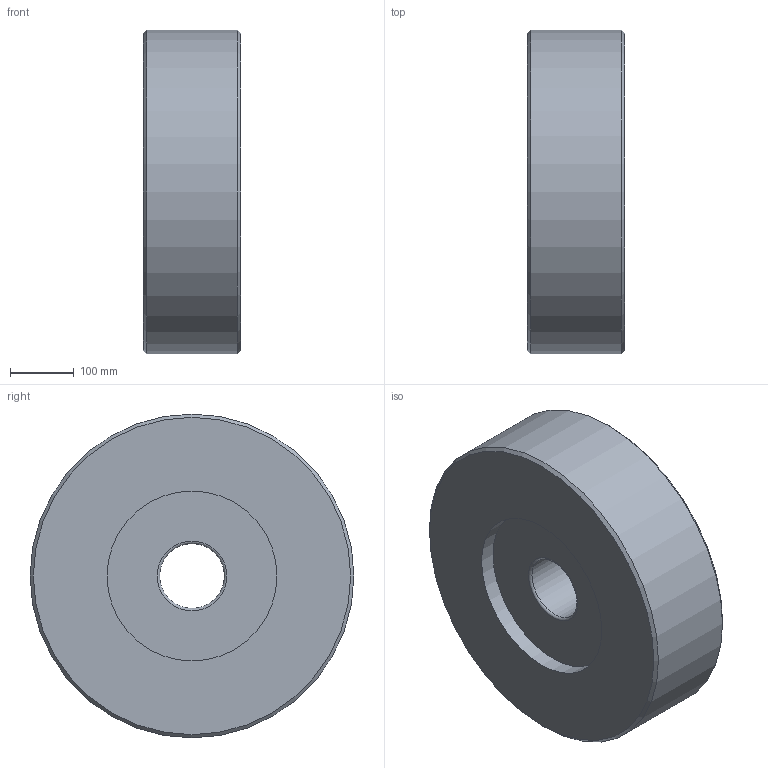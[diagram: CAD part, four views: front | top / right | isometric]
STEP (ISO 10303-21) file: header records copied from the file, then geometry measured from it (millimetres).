
FILE_DESCRIPTION((''),'1');
FILE_NAME('H:/図庫/国内ﾕﾆｯﾄ/ｶﾀﾛｸﾞ/樹脂巻き/ホームページ用ＣＡＤ図面/update用/3D/', '2017-07-13T04:49:32',(''), (''), 'KCM Version 1.1.1442.0', 'Kubotek KeyCreator', '');
FILE_SCHEMA(('AUTOMOTIVE_DESIGN'));
Length unit declared in the file: inch
Bounding box: 152.4 x 508 x 508 mm (x, y, z)
Surface area: 696767.2 mm2 (no closed solid volume)
Topology: 0 solids, 12 shells, 12 faces, 40 edges, 32 vertices
Faces by surface type: plane 4, cylinder 4, cone 2, torus 2
Full cylindrical faces by diameter (mm): 101.6 x1, 266.7 x2, 508 x1
Entity records: 476 total; most frequent: DIRECTION 92, CARTESIAN_POINT 81, ORIENTED_EDGE 48, AXIS2_PLACEMENT_3D 43, EDGE_CURVE 40, VERTEX_POINT 32, CIRCLE 30, EDGE_LOOP 16
